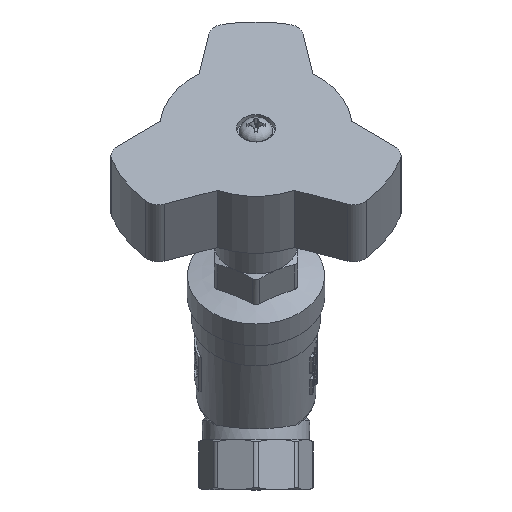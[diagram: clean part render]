
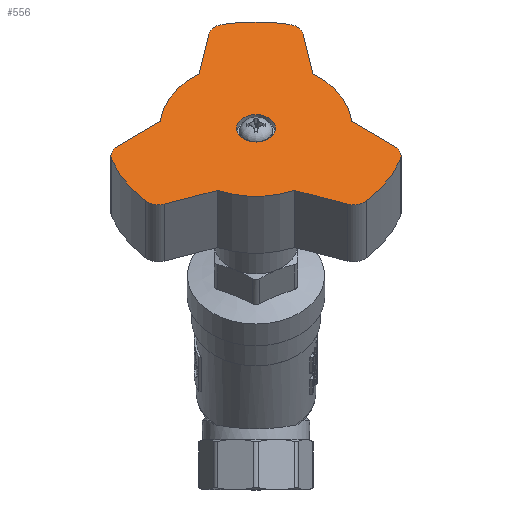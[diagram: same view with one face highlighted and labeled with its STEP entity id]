
A CAD part, top view. The second image highlights one B-rep face of the part: STEP entity #556.
In plain terms, the highlighted planar face has unit normal (0, 0.707, 0.707) as drawn and (0, 1, 0) by its records, which use the part's own axes.
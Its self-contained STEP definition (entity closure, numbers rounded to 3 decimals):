
#556=ADVANCED_FACE('',(#5310,#5312),#5314,.T.);
#5310=FACE_BOUND('',#5311,.T.);
#5311=EDGE_LOOP('',(#8170,#8171,#8172,#8173,#8174,#8175,#8176,#8177,#8178,#8179,
#8180,#8181,#8182,#8183,#8184,#8185,#8186,#8187));
#5312=FACE_BOUND('',#5313,.T.);
#5313=EDGE_LOOP('',(#8188));
#5314=PLANE('',#5315);
#5315=AXIS2_PLACEMENT_3D('',#5316,#5317,#5318);
#5316=CARTESIAN_POINT('',(0.,18.4,0.));
#5317=DIRECTION('',(0.,1.,0.));
#5318=DIRECTION('',(-1.,0.,0.));
#8170=ORIENTED_EDGE('',*,*,#9421,.F.);
#8171=ORIENTED_EDGE('',*,*,#9422,.T.);
#8172=ORIENTED_EDGE('',*,*,#9423,.T.);
#8173=ORIENTED_EDGE('',*,*,#9424,.T.);
#8174=ORIENTED_EDGE('',*,*,#9425,.F.);
#8175=ORIENTED_EDGE('',*,*,#9426,.T.);
#8176=ORIENTED_EDGE('',*,*,#9427,.F.);
#8177=ORIENTED_EDGE('',*,*,#9428,.T.);
#8178=ORIENTED_EDGE('',*,*,#9429,.T.);
#8179=ORIENTED_EDGE('',*,*,#9430,.T.);
#8180=ORIENTED_EDGE('',*,*,#9431,.F.);
#8181=ORIENTED_EDGE('',*,*,#9432,.T.);
#8182=ORIENTED_EDGE('',*,*,#9433,.F.);
#8183=ORIENTED_EDGE('',*,*,#9434,.T.);
#8184=ORIENTED_EDGE('',*,*,#9435,.T.);
#8185=ORIENTED_EDGE('',*,*,#9436,.T.);
#8186=ORIENTED_EDGE('',*,*,#9437,.F.);
#8187=ORIENTED_EDGE('',*,*,#9438,.T.);
#8188=ORIENTED_EDGE('',*,*,#9419,.T.);
#9419=EDGE_CURVE('',#11231,#11231,#11232,.F.);
#9421=EDGE_CURVE('',#11235,#11236,#11237,.F.);
#9422=EDGE_CURVE('',#11235,#11238,#11239,.T.);
#9423=EDGE_CURVE('',#11238,#11240,#11241,.T.);
#9424=EDGE_CURVE('',#11240,#11242,#11243,.T.);
#9425=EDGE_CURVE('',#11244,#11242,#11245,.F.);
#9426=EDGE_CURVE('',#11244,#11246,#11247,.T.);
#9427=EDGE_CURVE('',#11248,#11246,#11249,.F.);
#9428=EDGE_CURVE('',#11248,#11250,#11251,.T.);
#9429=EDGE_CURVE('',#11250,#11252,#11253,.T.);
#9430=EDGE_CURVE('',#11252,#11254,#11255,.T.);
#9431=EDGE_CURVE('',#11256,#11254,#11257,.F.);
#9432=EDGE_CURVE('',#11256,#11258,#11259,.T.);
#9433=EDGE_CURVE('',#11260,#11258,#11261,.F.);
#9434=EDGE_CURVE('',#11260,#11262,#11263,.T.);
#9435=EDGE_CURVE('',#11262,#11264,#11265,.T.);
#9436=EDGE_CURVE('',#11264,#11266,#11267,.T.);
#9437=EDGE_CURVE('',#11268,#11266,#11269,.F.);
#9438=EDGE_CURVE('',#11268,#11236,#11270,.T.);
#11231=VERTEX_POINT('',#23456);
#11232=CIRCLE('',#23457,4.45);
#11235=VERTEX_POINT('',#23466);
#11236=VERTEX_POINT('',#23467);
#11237=CIRCLE('',#23468,4.);
#11238=VERTEX_POINT('',#23472);
#11239=LINE('',#23473,#23474);
#11240=VERTEX_POINT('',#23476);
#11241=CIRCLE('',#23477,22.);
#11242=VERTEX_POINT('',#23481);
#11243=LINE('',#23482,#23483);
#11244=VERTEX_POINT('',#23485);
#11245=CIRCLE('',#23486,4.);
#11246=VERTEX_POINT('',#23490);
#11247=CIRCLE('',#23491,34.5);
#11248=VERTEX_POINT('',#23495);
#11249=CIRCLE('',#23496,4.);
#11250=VERTEX_POINT('',#23500);
#11251=LINE('',#23501,#23502);
#11252=VERTEX_POINT('',#23504);
#11253=CIRCLE('',#23505,22.);
#11254=VERTEX_POINT('',#23509);
#11255=LINE('',#23510,#23511);
#11256=VERTEX_POINT('',#23513);
#11257=CIRCLE('',#23514,4.);
#11258=VERTEX_POINT('',#23518);
#11259=CIRCLE('',#23519,34.5);
#11260=VERTEX_POINT('',#23523);
#11261=CIRCLE('',#23524,4.);
#11262=VERTEX_POINT('',#23528);
#11263=LINE('',#23529,#23530);
#11264=VERTEX_POINT('',#23532);
#11265=CIRCLE('',#23533,22.);
#11266=VERTEX_POINT('',#23537);
#11267=LINE('',#23538,#23539);
#11268=VERTEX_POINT('',#23541);
#11269=CIRCLE('',#23542,4.);
#11270=CIRCLE('',#23546,34.5);
#23456=CARTESIAN_POINT('',(0.,18.4,-4.45));
#23457=AXIS2_PLACEMENT_3D('',#23458,#23459,#23460);
#23458=CARTESIAN_POINT('',(0.,18.4,0.));
#23459=DIRECTION('',(0.,1.,0.));
#23460=DIRECTION('',(0.,0.,-1.));
#23466=CARTESIAN_POINT('',(20.963,18.4,-24.534));
#23467=CARTESIAN_POINT('',(25.259,18.4,-23.499));
#23468=AXIS2_PLACEMENT_3D('',#23469,#23470,#23471);
#23469=CARTESIAN_POINT('',(22.331,18.4,-20.775));
#23470=DIRECTION('',(0.,1.,0.));
#23471=DIRECTION('',(0.732,0.,-0.681));
#23472=CARTESIAN_POINT('',(8.87,18.4,-20.132));
#23473=CARTESIAN_POINT('',(20.963,18.4,-24.534));
#23474=VECTOR('',#23475,1.);
#23475=DIRECTION('',(-0.94,0.,0.342));
#23476=CARTESIAN_POINT('',(-8.87,18.4,-20.132));
#23477=AXIS2_PLACEMENT_3D('',#23478,#23479,#23480);
#23478=CARTESIAN_POINT('',(0.,18.4,0.));
#23479=DIRECTION('',(0.,1.,0.));
#23480=DIRECTION('',(0.403,0.,-0.915));
#23481=CARTESIAN_POINT('',(-20.963,18.4,-24.534));
#23482=CARTESIAN_POINT('',(-8.87,18.4,-20.132));
#23483=VECTOR('',#23484,1.);
#23484=DIRECTION('',(-0.94,0.,-0.342));
#23485=CARTESIAN_POINT('',(-25.259,18.4,-23.499));
#23486=AXIS2_PLACEMENT_3D('',#23487,#23488,#23489);
#23487=CARTESIAN_POINT('',(-22.331,18.4,-20.775));
#23488=DIRECTION('',(0.,1.,0.));
#23489=DIRECTION('',(0.342,0.,-0.94));
#23490=CARTESIAN_POINT('',(-32.981,18.4,-10.125));
#23491=AXIS2_PLACEMENT_3D('',#23492,#23493,#23494);
#23492=CARTESIAN_POINT('',(0.,18.4,0.));
#23493=DIRECTION('',(0.,1.,0.));
#23494=DIRECTION('',(-0.732,0.,-0.681));
#23495=CARTESIAN_POINT('',(-31.728,18.4,-5.887));
#23496=AXIS2_PLACEMENT_3D('',#23497,#23498,#23499);
#23497=CARTESIAN_POINT('',(-29.157,18.4,-8.951));
#23498=DIRECTION('',(0.,1.,0.));
#23499=DIRECTION('',(-0.956,0.,-0.293));
#23500=CARTESIAN_POINT('',(-21.87,18.4,2.384));
#23501=CARTESIAN_POINT('',(-31.728,18.4,-5.887));
#23502=VECTOR('',#23503,1.);
#23503=DIRECTION('',(0.766,0.,0.643));
#23504=CARTESIAN_POINT('',(-13.,18.4,17.748));
#23505=AXIS2_PLACEMENT_3D('',#23506,#23507,#23508);
#23506=CARTESIAN_POINT('',(0.,18.4,0.));
#23507=DIRECTION('',(0.,1.,0.));
#23508=DIRECTION('',(-0.994,0.,0.108));
#23509=CARTESIAN_POINT('',(-10.765,18.4,30.421));
#23510=CARTESIAN_POINT('',(-13.,18.4,17.748));
#23511=VECTOR('',#23512,1.);
#23512=DIRECTION('',(0.174,0.,0.985));
#23513=CARTESIAN_POINT('',(-7.721,18.4,33.625));
#23514=AXIS2_PLACEMENT_3D('',#23515,#23516,#23517);
#23515=CARTESIAN_POINT('',(-6.826,18.4,29.726));
#23516=DIRECTION('',(0.,1.,0.));
#23517=DIRECTION('',(-0.985,0.,0.174));
#23518=CARTESIAN_POINT('',(7.721,18.4,33.625));
#23519=AXIS2_PLACEMENT_3D('',#23520,#23521,#23522);
#23520=CARTESIAN_POINT('',(0.,18.4,0.));
#23521=DIRECTION('',(0.,1.,0.));
#23522=DIRECTION('',(-0.224,0.,0.975));
#23523=CARTESIAN_POINT('',(10.765,18.4,30.421));
#23524=AXIS2_PLACEMENT_3D('',#23525,#23526,#23527);
#23525=CARTESIAN_POINT('',(6.826,18.4,29.726));
#23526=DIRECTION('',(0.,1.,0.));
#23527=DIRECTION('',(0.224,0.,0.975));
#23528=CARTESIAN_POINT('',(13.,18.4,17.748));
#23529=CARTESIAN_POINT('',(10.765,18.4,30.421));
#23530=VECTOR('',#23531,1.);
#23531=DIRECTION('',(0.174,0.,-0.985));
#23532=CARTESIAN_POINT('',(21.87,18.4,2.384));
#23533=AXIS2_PLACEMENT_3D('',#23534,#23535,#23536);
#23534=CARTESIAN_POINT('',(0.,18.4,0.));
#23535=DIRECTION('',(0.,1.,0.));
#23536=DIRECTION('',(0.591,0.,0.807));
#23537=CARTESIAN_POINT('',(31.728,18.4,-5.887));
#23538=CARTESIAN_POINT('',(21.87,18.4,2.384));
#23539=VECTOR('',#23540,1.);
#23540=DIRECTION('',(0.766,0.,-0.643));
#23541=CARTESIAN_POINT('',(32.981,18.4,-10.125));
#23542=AXIS2_PLACEMENT_3D('',#23543,#23544,#23545);
#23543=CARTESIAN_POINT('',(29.157,18.4,-8.951));
#23544=DIRECTION('',(0.,1.,0.));
#23545=DIRECTION('',(0.643,0.,0.766));
#23546=AXIS2_PLACEMENT_3D('',#23547,#23548,#23549);
#23547=CARTESIAN_POINT('',(0.,18.4,0.));
#23548=DIRECTION('',(0.,1.,0.));
#23549=DIRECTION('',(0.956,0.,-0.293));
